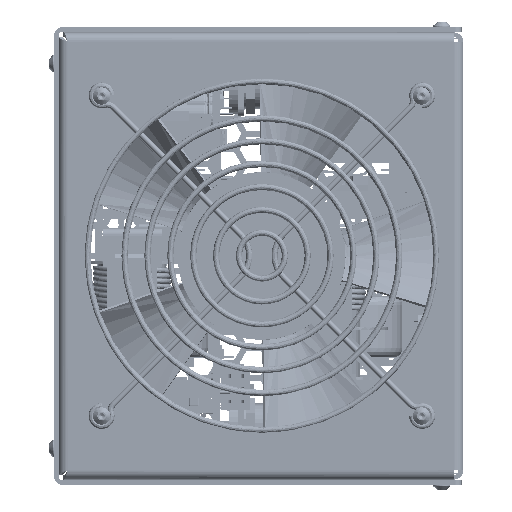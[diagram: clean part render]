
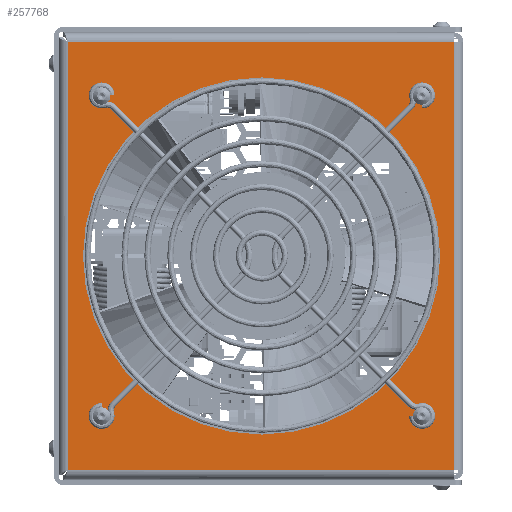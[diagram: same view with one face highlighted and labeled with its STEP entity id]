
A CAD part, left-side view. The second image highlights one B-rep face of the part: STEP entity #257768.
In plain terms, the highlighted planar face has unit normal (-1, 0, 0) as drawn and (0, 0, 1) by its records, which use the part's own axes.
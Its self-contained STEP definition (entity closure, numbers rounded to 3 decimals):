
#2350 = AXIS2_PLACEMENT_3D ( 'NONE', #161923, #28086, #728971 ) ;
#4111 = VERTEX_POINT ( 'NONE', #251628 ) ;
#8760 = VERTEX_POINT ( 'NONE', #550565 ) ;
#11635 = EDGE_CURVE ( 'NONE', #436974, #8760, #559411, .T. ) ;
#22534 = DIRECTION ( 'NONE',  ( 0., 0., 1. ) ) ;
#27996 = ORIENTED_EDGE ( 'NONE', *, *, #499120, .T. ) ;
#28086 = DIRECTION ( 'NONE',  ( 0., 0., 1. ) ) ;
#33175 = AXIS2_PLACEMENT_3D ( 'NONE', #860540, #583793, #445388 ) ;
#37550 = EDGE_LOOP ( 'NONE', ( #552664, #775863, #578487, #27996 ) ) ;
#46524 = VECTOR ( 'NONE', #659687, 1000. ) ;
#60838 = CARTESIAN_POINT ( 'NONE',  ( 54.15, 118.4, 0. ) ) ;
#61022 = DIRECTION ( 'NONE',  ( 1., 0., 0. ) ) ;
#70642 = CARTESIAN_POINT ( 'NONE',  ( 73.25, 0., 0. ) ) ;
#75942 = ORIENTED_EDGE ( 'NONE', *, *, #211721, .F. ) ;
#94521 = VERTEX_POINT ( 'NONE', #476913 ) ;
#94622 = DIRECTION ( 'NONE',  ( 1., 0., 0. ) ) ;
#96554 = EDGE_LOOP ( 'NONE', ( #291708, #675522 ) ) ;
#105184 = CARTESIAN_POINT ( 'NONE',  ( 73.25, 3., 0. ) ) ;
#106083 = EDGE_LOOP ( 'NONE', ( #749477, #75942 ) ) ;
#116639 = DIRECTION ( 'NONE',  ( 0., 0., 1. ) ) ;
#132385 = AXIS2_PLACEMENT_3D ( 'NONE', #263920, #342264, #831096 ) ;
#161923 = CARTESIAN_POINT ( 'NONE',  ( 0., 66., 0. ) ) ;
#162559 = PLANE ( 'NONE',  #821344 ) ;
#166873 = EDGE_CURVE ( 'NONE', #652069, #4111, #666228, .T. ) ;
#175636 = CARTESIAN_POINT ( 'NONE',  ( 70.25, 3., 0. ) ) ;
#182868 = EDGE_LOOP ( 'NONE', ( #846329, #378114 ) ) ;
#189697 = CARTESIAN_POINT ( 'NONE',  ( -54.15, 118.4, 0. ) ) ;
#197641 = AXIS2_PLACEMENT_3D ( 'NONE', #892109, #255850, #766385 ) ;
#206963 = CARTESIAN_POINT ( 'NONE',  ( 50.65, 118.4, 0. ) ) ;
#211721 = EDGE_CURVE ( 'NONE', #8760, #436974, #803185, .T. ) ;
#212427 = VECTOR ( 'NONE', #538264, 1000. ) ;
#213606 = FACE_BOUND ( 'NONE', #745512, .T. ) ;
#232981 = CARTESIAN_POINT ( 'NONE',  ( 52.4, 118.4, 0. ) ) ;
#240262 = LINE ( 'NONE', #175636, #46524 ) ;
#245081 = CARTESIAN_POINT ( 'NONE',  ( -70.25, 130.929, 0. ) ) ;
#251628 = CARTESIAN_POINT ( 'NONE',  ( -50.65, 118.4, 0. ) ) ;
#253729 = CARTESIAN_POINT ( 'NONE',  ( 71.679, 129.5, 0. ) ) ;
#255850 = DIRECTION ( 'NONE',  ( 0., 0., 1. ) ) ;
#257768 = ADVANCED_FACE ( 'NONE', ( #351911, #430043, #213606, #356409, #425576, #863383 ), #162559, .F. ) ;
#263920 = CARTESIAN_POINT ( 'NONE',  ( -52.4, 13.6, 0. ) ) ;
#263951 = CARTESIAN_POINT ( 'NONE',  ( 52.4, 13.6, 0. ) ) ;
#275411 = EDGE_CURVE ( 'NONE', #626711, #571077, #240262, .T. ) ;
#278278 = CARTESIAN_POINT ( 'NONE',  ( -52.4, 118.4, 0. ) ) ;
#283349 = CIRCLE ( 'NONE', #798780, 1.75 ) ;
#291708 = ORIENTED_EDGE ( 'NONE', *, *, #684709, .F. ) ;
#302634 = VERTEX_POINT ( 'NONE', #676193 ) ;
#305520 = VERTEX_POINT ( 'NONE', #538660 ) ;
#318871 = CIRCLE ( 'NONE', #568841, 1.75 ) ;
#321724 = LINE ( 'NONE', #105184, #212427 ) ;
#333174 = VERTEX_POINT ( 'NONE', #60838 ) ;
#342264 = DIRECTION ( 'NONE',  ( 0., 0., 1. ) ) ;
#351765 = AXIS2_PLACEMENT_3D ( 'NONE', #232981, #592291, #94622 ) ;
#351911 = FACE_BOUND ( 'NONE', #106083, .T. ) ;
#354757 = DIRECTION ( 'NONE',  ( 1., 0., 0. ) ) ;
#356409 = FACE_BOUND ( 'NONE', #96554, .T. ) ;
#368257 = VERTEX_POINT ( 'NONE', #206963 ) ;
#374008 = CIRCLE ( 'NONE', #197641, 58.5 ) ;
#378114 = ORIENTED_EDGE ( 'NONE', *, *, #483184, .F. ) ;
#392140 = DIRECTION ( 'NONE',  ( -1., 0., 0. ) ) ;
#405634 = AXIS2_PLACEMENT_3D ( 'NONE', #624471, #426164, #841292 ) ;
#425576 = FACE_BOUND ( 'NONE', #182868, .T. ) ;
#426164 = DIRECTION ( 'NONE',  ( 0., 0., 1. ) ) ;
#430043 = FACE_BOUND ( 'NONE', #677740, .T. ) ;
#435207 = EDGE_CURVE ( 'NONE', #94521, #597170, #283349, .T. ) ;
#436974 = VERTEX_POINT ( 'NONE', #716864 ) ;
#439159 = EDGE_CURVE ( 'NONE', #305520, #302634, #595325, .T. ) ;
#445388 = DIRECTION ( 'NONE',  ( 1., 0., 0. ) ) ;
#455580 = EDGE_CURVE ( 'NONE', #333174, #368257, #911111, .T. ) ;
#456937 = DIRECTION ( 'NONE',  ( 0., -1., 0. ) ) ;
#458775 = CARTESIAN_POINT ( 'NONE',  ( 70.25, 129.5, 0. ) ) ;
#461112 = EDGE_CURVE ( 'NONE', #647552, #605871, #374008, .T. ) ;
#467259 = EDGE_CURVE ( 'NONE', #368257, #333174, #733491, .T. ) ;
#476913 = CARTESIAN_POINT ( 'NONE',  ( 50.65, 13.6, 0. ) ) ;
#479807 = CIRCLE ( 'NONE', #552885, 1.75 ) ;
#483184 = EDGE_CURVE ( 'NONE', #605871, #647552, #887627, .T. ) ;
#499120 = EDGE_CURVE ( 'NONE', #571077, #305520, #880891, .T. ) ;
#501995 = CARTESIAN_POINT ( 'NONE',  ( 52.4, 13.6, 0. ) ) ;
#531423 = EDGE_CURVE ( 'NONE', #597170, #94521, #479807, .T. ) ;
#538264 = DIRECTION ( 'NONE',  ( -1., 0., 0. ) ) ;
#538660 = CARTESIAN_POINT ( 'NONE',  ( -70.25, 129.5, 0. ) ) ;
#550565 = CARTESIAN_POINT ( 'NONE',  ( -54.15, 13.6, 0. ) ) ;
#552664 = ORIENTED_EDGE ( 'NONE', *, *, #439159, .T. ) ;
#552885 = AXIS2_PLACEMENT_3D ( 'NONE', #501995, #22534, #354757 ) ;
#559411 = CIRCLE ( 'NONE', #132385, 1.75 ) ;
#568841 = AXIS2_PLACEMENT_3D ( 'NONE', #278278, #776226, #840789 ) ;
#571077 = VERTEX_POINT ( 'NONE', #458775 ) ;
#578487 = ORIENTED_EDGE ( 'NONE', *, *, #275411, .T. ) ;
#583793 = DIRECTION ( 'NONE',  ( 0., 0., 1. ) ) ;
#591030 = VECTOR ( 'NONE', #456937, 1000. ) ;
#592291 = DIRECTION ( 'NONE',  ( 0., 0., 1. ) ) ;
#595325 = LINE ( 'NONE', #245081, #591030 ) ;
#597170 = VERTEX_POINT ( 'NONE', #856907 ) ;
#605871 = VERTEX_POINT ( 'NONE', #806880 ) ;
#624471 = CARTESIAN_POINT ( 'NONE',  ( -52.4, 13.6, 0. ) ) ;
#626711 = VERTEX_POINT ( 'NONE', #757626 ) ;
#631319 = DIRECTION ( 'NONE',  ( 1., 0., 0. ) ) ;
#644925 = DIRECTION ( 'NONE',  ( 0., 0., 1. ) ) ;
#647552 = VERTEX_POINT ( 'NONE', #718026 ) ;
#652069 = VERTEX_POINT ( 'NONE', #189697 ) ;
#659687 = DIRECTION ( 'NONE',  ( 0., 1., 0. ) ) ;
#666228 = CIRCLE ( 'NONE', #33175, 1.75 ) ;
#675522 = ORIENTED_EDGE ( 'NONE', *, *, #166873, .F. ) ;
#676193 = CARTESIAN_POINT ( 'NONE',  ( -70.25, 3., 0. ) ) ;
#677740 = EDGE_LOOP ( 'NONE', ( #702769, #830612 ) ) ;
#681719 = EDGE_CURVE ( 'NONE', #626711, #302634, #321724, .T. ) ;
#684709 = EDGE_CURVE ( 'NONE', #4111, #652069, #318871, .T. ) ;
#702769 = ORIENTED_EDGE ( 'NONE', *, *, #531423, .F. ) ;
#706799 = DIRECTION ( 'NONE',  ( -1., 0., 0. ) ) ;
#711353 = DIRECTION ( 'NONE',  ( 0., 0., -1. ) ) ;
#714269 = CARTESIAN_POINT ( 'NONE',  ( 52.4, 118.4, 0. ) ) ;
#716864 = CARTESIAN_POINT ( 'NONE',  ( -50.65, 13.6, 0. ) ) ;
#718026 = CARTESIAN_POINT ( 'NONE',  ( 58.5, 66., 0. ) ) ;
#728971 = DIRECTION ( 'NONE',  ( 1., 0., 0. ) ) ;
#733491 = CIRCLE ( 'NONE', #851245, 1.75 ) ;
#745512 = EDGE_LOOP ( 'NONE', ( #912023, #795607 ) ) ;
#749477 = ORIENTED_EDGE ( 'NONE', *, *, #11635, .F. ) ;
#757626 = CARTESIAN_POINT ( 'NONE',  ( 70.25, 3., 0. ) ) ;
#766385 = DIRECTION ( 'NONE',  ( 1., 0., 0. ) ) ;
#775863 = ORIENTED_EDGE ( 'NONE', *, *, #681719, .F. ) ;
#776226 = DIRECTION ( 'NONE',  ( 0., 0., 1. ) ) ;
#795607 = ORIENTED_EDGE ( 'NONE', *, *, #467259, .F. ) ;
#798780 = AXIS2_PLACEMENT_3D ( 'NONE', #263951, #116639, #61022 ) ;
#803185 = CIRCLE ( 'NONE', #405634, 1.75 ) ;
#806880 = CARTESIAN_POINT ( 'NONE',  ( -58.5, 66., 0. ) ) ;
#821344 = AXIS2_PLACEMENT_3D ( 'NONE', #70642, #711353, #706799 ) ;
#830612 = ORIENTED_EDGE ( 'NONE', *, *, #435207, .F. ) ;
#831096 = DIRECTION ( 'NONE',  ( 1., 0., 0. ) ) ;
#840789 = DIRECTION ( 'NONE',  ( 1., 0., 0. ) ) ;
#841292 = DIRECTION ( 'NONE',  ( 1., 0., 0. ) ) ;
#841503 = VECTOR ( 'NONE', #392140, 1000. ) ;
#846329 = ORIENTED_EDGE ( 'NONE', *, *, #461112, .F. ) ;
#851245 = AXIS2_PLACEMENT_3D ( 'NONE', #714269, #644925, #631319 ) ;
#856907 = CARTESIAN_POINT ( 'NONE',  ( 54.15, 13.6, 0. ) ) ;
#860540 = CARTESIAN_POINT ( 'NONE',  ( -52.4, 118.4, 0. ) ) ;
#863383 = FACE_OUTER_BOUND ( 'NONE', #37550, .T. ) ;
#880891 = LINE ( 'NONE', #253729, #841503 ) ;
#887627 = CIRCLE ( 'NONE', #2350, 58.5 ) ;
#892109 = CARTESIAN_POINT ( 'NONE',  ( 0., 66., 0. ) ) ;
#911111 = CIRCLE ( 'NONE', #351765, 1.75 ) ;
#912023 = ORIENTED_EDGE ( 'NONE', *, *, #455580, .F. ) ;
